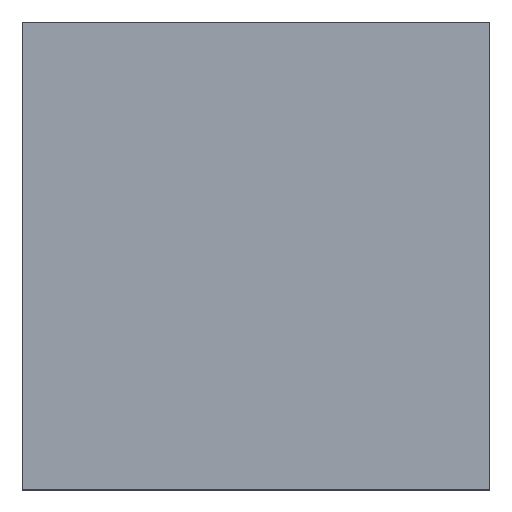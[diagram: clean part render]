
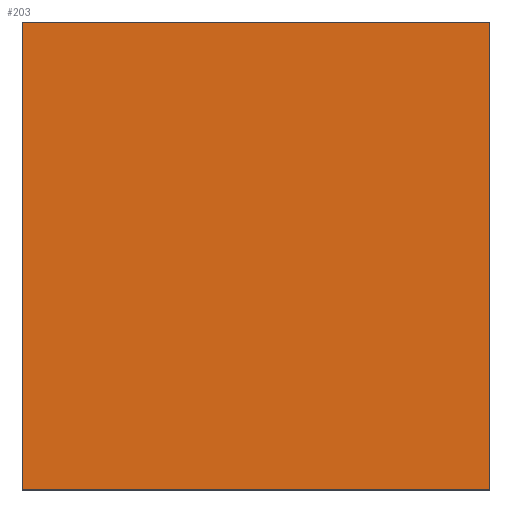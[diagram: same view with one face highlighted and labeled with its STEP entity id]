
A CAD part, top view. The second image highlights one B-rep face of the part: STEP entity #203.
In plain terms, the highlighted planar face has unit normal (0, 0, 1).
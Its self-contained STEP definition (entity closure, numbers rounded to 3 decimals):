
#73=CARTESIAN_POINT('',(-15.0,15.0,5.0));
#74=VERTEX_POINT('',#73);
#75=CARTESIAN_POINT('',(15.0,15.0,5.0));
#76=VERTEX_POINT('',#75);
#77=CARTESIAN_POINT('',(-15.0,15.0,5.0));
#78=DIRECTION('',(1.0,0.0,0.0));
#79=VECTOR('',#78,30.0);
#80=LINE('',#77,#79);
#81=EDGE_CURVE('',#74,#76,#80,.T.);
#113=CARTESIAN_POINT('',(15.0,-15.0,5.0));
#114=VERTEX_POINT('',#113);
#115=CARTESIAN_POINT('',(15.0,15.0,5.0));
#116=DIRECTION('',(0.0,-1.0,0.0));
#117=VECTOR('',#116,30.0);
#118=LINE('',#115,#117);
#119=EDGE_CURVE('',#76,#114,#118,.T.);
#144=CARTESIAN_POINT('',(-15.0,-15.0,5.0));
#145=VERTEX_POINT('',#144);
#146=CARTESIAN_POINT('',(15.0,-15.0,5.0));
#147=DIRECTION('',(-1.0,0.0,0.0));
#148=VECTOR('',#147,30.0);
#149=LINE('',#146,#148);
#150=EDGE_CURVE('',#114,#145,#149,.T.);
#175=CARTESIAN_POINT('',(-15.0,-15.0,5.0));
#176=DIRECTION('',(0.0,1.0,0.0));
#177=VECTOR('',#176,30.0);
#178=LINE('',#175,#177);
#179=EDGE_CURVE('',#145,#74,#178,.T.);
#192=CARTESIAN_POINT('',(0.,0.0,5.0));
#193=DIRECTION('',(0.0,0.0,1.0));
#194=DIRECTION('',(1.0,0.0,0.0));
#195=AXIS2_PLACEMENT_3D('',#192,#193,#194);
#196=PLANE('',#195);
#197=ORIENTED_EDGE('',*,*,#81,.F.);
#198=ORIENTED_EDGE('',*,*,#179,.F.);
#199=ORIENTED_EDGE('',*,*,#150,.F.);
#200=ORIENTED_EDGE('',*,*,#119,.F.);
#201=EDGE_LOOP('',(#197,#198,#199,#200));
#202=FACE_OUTER_BOUND('',#201,.T.);
#203=ADVANCED_FACE('',(#202),#196,.T.);
